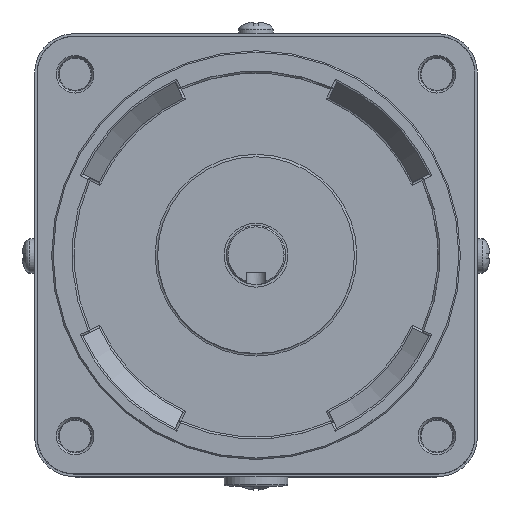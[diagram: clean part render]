
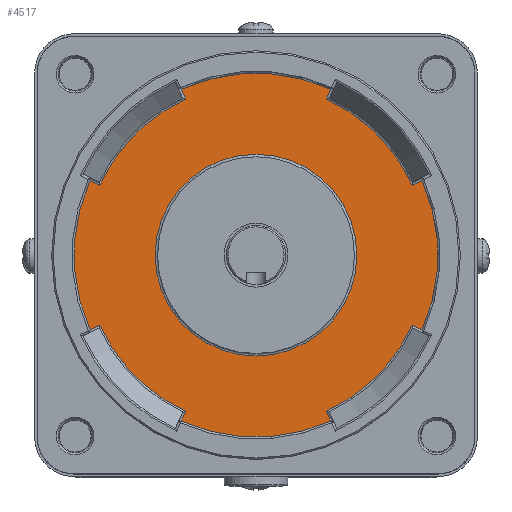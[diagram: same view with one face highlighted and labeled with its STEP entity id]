
A CAD part, top view. The second image highlights one B-rep face of the part: STEP entity #4517.
In plain terms, the highlighted planar face has unit normal (0, 0, 1).
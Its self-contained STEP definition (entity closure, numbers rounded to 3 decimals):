
#151 = DIRECTION ( 'NONE',  ( 0., 0., 1. ) ) ;
#214 = EDGE_CURVE ( 'NONE', #10120, #3008, #1439, .T. ) ;
#532 = EDGE_LOOP ( 'NONE', ( #12179, #13134, #2862, #12290, #6145, #11469, #13446, #6434, #1766, #11454, #2673, #5649, #7414, #8205, #9770, #7848 ) ) ;
#917 = LINE ( 'NONE', #3191, #1034 ) ;
#921 = VERTEX_POINT ( 'NONE', #8550 ) ;
#977 = EDGE_CURVE ( 'NONE', #8575, #4159, #11485, .T. ) ;
#1034 = VECTOR ( 'NONE', #9142, 1000. ) ;
#1363 = CIRCLE ( 'NONE', #7079, 36.987 ) ;
#1420 = CIRCLE ( 'NONE', #2755, 36.987 ) ;
#1439 = LINE ( 'NONE', #7895, #3119 ) ;
#1555 = CIRCLE ( 'NONE', #2223, 34.775 ) ;
#1766 = ORIENTED_EDGE ( 'NONE', *, *, #11081, .T. ) ;
#2002 = VERTEX_POINT ( 'NONE', #12352 ) ;
#2088 = CIRCLE ( 'NONE', #10825, 34.775 ) ;
#2223 = AXIS2_PLACEMENT_3D ( 'NONE', #6343, #151, #10574 ) ;
#2420 = DIRECTION ( 'NONE',  ( 0., 0., 1. ) ) ;
#2543 = EDGE_CURVE ( 'NONE', #6810, #3446, #10023, .T. ) ;
#2603 = DIRECTION ( 'NONE',  ( 1., 0., 0. ) ) ;
#2613 = FACE_OUTER_BOUND ( 'NONE', #532, .T. ) ;
#2623 = EDGE_CURVE ( 'NONE', #4159, #10120, #7289, .T. ) ;
#2673 = ORIENTED_EDGE ( 'NONE', *, *, #977, .T. ) ;
#2712 = CARTESIAN_POINT ( 'NONE',  ( -33.73, -15.177, -2. ) ) ;
#2718 = DIRECTION ( 'NONE',  ( 0.906, -0.423, 0. ) ) ;
#2733 = DIRECTION ( 'NONE',  ( 1., 0., 0. ) ) ;
#2755 = AXIS2_PLACEMENT_3D ( 'NONE', #12578, #7246, #8138 ) ;
#2805 = EDGE_CURVE ( 'NONE', #7605, #8666, #1555, .T. ) ;
#2842 = VERTEX_POINT ( 'NONE', #7016 ) ;
#2862 = ORIENTED_EDGE ( 'NONE', *, *, #11495, .T. ) ;
#2972 = EDGE_CURVE ( 'NONE', #3008, #10675, #6156, .T. ) ;
#3008 = VERTEX_POINT ( 'NONE', #10351 ) ;
#3119 = VECTOR ( 'NONE', #8779, 1000. ) ;
#3191 = CARTESIAN_POINT ( 'NONE',  ( -14.338, 31.932, -2. ) ) ;
#3309 = CARTESIAN_POINT ( 'NONE',  ( -33.73, 15.177, -2. ) ) ;
#3446 = VERTEX_POINT ( 'NONE', #4048 ) ;
#3720 = PLANE ( 'NONE',  #9865 ) ;
#3873 = EDGE_CURVE ( 'NONE', #4359, #5168, #7857, .T. ) ;
#3902 = DIRECTION ( 'NONE',  ( 0., 0., 1. ) ) ;
#4024 = AXIS2_PLACEMENT_3D ( 'NONE', #7046, #3902, #8070 ) ;
#4048 = CARTESIAN_POINT ( 'NONE',  ( 33.73, -15.177, -2. ) ) ;
#4084 = DIRECTION ( 'NONE',  ( -0.906, -0.423, 0. ) ) ;
#4159 = VERTEX_POINT ( 'NONE', #10083 ) ;
#4245 = DIRECTION ( 'NONE',  ( 0.906, 0.423, 0. ) ) ;
#4262 = CARTESIAN_POINT ( 'NONE',  ( 31.725, -14.242, -2. ) ) ;
#4332 = VERTEX_POINT ( 'NONE', #3309 ) ;
#4359 = VERTEX_POINT ( 'NONE', #11515 ) ;
#4517 = ADVANCED_FACE ( 'NONE', ( #2613, #7758 ), #3720, .T. ) ;
#5059 = LINE ( 'NONE', #9220, #7346 ) ;
#5098 = EDGE_LOOP ( 'NONE', ( #12150 ) ) ;
#5168 = VERTEX_POINT ( 'NONE', #7715 ) ;
#5421 = LINE ( 'NONE', #6787, #8880 ) ;
#5649 = ORIENTED_EDGE ( 'NONE', *, *, #2623, .T. ) ;
#5879 = EDGE_CURVE ( 'NONE', #2842, #2842, #8109, .T. ) ;
#6053 = CARTESIAN_POINT ( 'NONE',  ( -14.242, -31.725, -2. ) ) ;
#6145 = ORIENTED_EDGE ( 'NONE', *, *, #12709, .T. ) ;
#6156 = CIRCLE ( 'NONE', #12499, 36.987 ) ;
#6195 = VECTOR ( 'NONE', #2718, 1000. ) ;
#6343 = CARTESIAN_POINT ( 'NONE',  ( 0., 0., -2. ) ) ;
#6434 = ORIENTED_EDGE ( 'NONE', *, *, #2805, .T. ) ;
#6440 = CARTESIAN_POINT ( 'NONE',  ( 15.177, 33.73, -2. ) ) ;
#6771 = DIRECTION ( 'NONE',  ( 0., 0., 1. ) ) ;
#6787 = CARTESIAN_POINT ( 'NONE',  ( 14.338, -31.932, -2. ) ) ;
#6791 = DIRECTION ( 'NONE',  ( 0., 0., 1. ) ) ;
#6810 = VERTEX_POINT ( 'NONE', #4262 ) ;
#6849 = AXIS2_PLACEMENT_3D ( 'NONE', #8124, #8055, #12369 ) ;
#6862 = DIRECTION ( 'NONE',  ( 1., 0., 0. ) ) ;
#7016 = CARTESIAN_POINT ( 'NONE',  ( 20.5, 0., -2. ) ) ;
#7046 = CARTESIAN_POINT ( 'NONE',  ( 0., 0., -2. ) ) ;
#7079 = AXIS2_PLACEMENT_3D ( 'NONE', #12794, #11765, #13067 ) ;
#7246 = DIRECTION ( 'NONE',  ( 0., 0., 1. ) ) ;
#7252 = VERTEX_POINT ( 'NONE', #6440 ) ;
#7289 = CIRCLE ( 'NONE', #6849, 34.775 ) ;
#7346 = VECTOR ( 'NONE', #13408, 1000. ) ;
#7414 = ORIENTED_EDGE ( 'NONE', *, *, #214, .T. ) ;
#7605 = VERTEX_POINT ( 'NONE', #13539 ) ;
#7679 = CARTESIAN_POINT ( 'NONE',  ( 0., 0., -2. ) ) ;
#7715 = CARTESIAN_POINT ( 'NONE',  ( 14.242, 31.725, -2. ) ) ;
#7758 = FACE_BOUND ( 'NONE', #5098, .T. ) ;
#7848 = ORIENTED_EDGE ( 'NONE', *, *, #10902, .T. ) ;
#7857 = CIRCLE ( 'NONE', #10030, 34.775 ) ;
#7895 = CARTESIAN_POINT ( 'NONE',  ( 0.453, -0.211, -2. ) ) ;
#7904 = DIRECTION ( 'NONE',  ( 1., 0., 0. ) ) ;
#7923 = CARTESIAN_POINT ( 'NONE',  ( 0.211, 0.453, -2. ) ) ;
#8055 = DIRECTION ( 'NONE',  ( 0., 0., 1. ) ) ;
#8070 = DIRECTION ( 'NONE',  ( 1., 0., 0. ) ) ;
#8109 = CIRCLE ( 'NONE', #11813, 20.5 ) ;
#8124 = CARTESIAN_POINT ( 'NONE',  ( 0., 0., -2. ) ) ;
#8138 = DIRECTION ( 'NONE',  ( 1., 0., 0. ) ) ;
#8205 = ORIENTED_EDGE ( 'NONE', *, *, #2972, .T. ) ;
#8356 = LINE ( 'NONE', #12463, #12667 ) ;
#8372 = EDGE_CURVE ( 'NONE', #4332, #8575, #1363, .T. ) ;
#8452 = EDGE_CURVE ( 'NONE', #3446, #921, #9902, .T. ) ;
#8550 = CARTESIAN_POINT ( 'NONE',  ( 33.73, 15.177, -2. ) ) ;
#8575 = VERTEX_POINT ( 'NONE', #2712 ) ;
#8666 = VERTEX_POINT ( 'NONE', #10570 ) ;
#8779 = DIRECTION ( 'NONE',  ( -0.423, -0.906, 0. ) ) ;
#8880 = VECTOR ( 'NONE', #9649, 1000. ) ;
#9142 = DIRECTION ( 'NONE',  ( 0.423, -0.906, 0. ) ) ;
#9220 = CARTESIAN_POINT ( 'NONE',  ( -0.211, -0.453, -2. ) ) ;
#9649 = DIRECTION ( 'NONE',  ( -0.423, 0.906, 0. ) ) ;
#9770 = ORIENTED_EDGE ( 'NONE', *, *, #10321, .T. ) ;
#9786 = CARTESIAN_POINT ( 'NONE',  ( 0., 0., -2. ) ) ;
#9865 = AXIS2_PLACEMENT_3D ( 'NONE', #9786, #6791, #6862 ) ;
#9902 = CIRCLE ( 'NONE', #4024, 36.987 ) ;
#10023 = LINE ( 'NONE', #7923, #6195 ) ;
#10030 = AXIS2_PLACEMENT_3D ( 'NONE', #12183, #12116, #2733 ) ;
#10083 = CARTESIAN_POINT ( 'NONE',  ( -31.725, -14.242, -2. ) ) ;
#10120 = VERTEX_POINT ( 'NONE', #6053 ) ;
#10303 = LINE ( 'NONE', #13458, #11095 ) ;
#10321 = EDGE_CURVE ( 'NONE', #10675, #2002, #5421, .T. ) ;
#10351 = CARTESIAN_POINT ( 'NONE',  ( -15.177, -33.73, -2. ) ) ;
#10459 = CARTESIAN_POINT ( 'NONE',  ( -31.932, -14.338, -2. ) ) ;
#10570 = CARTESIAN_POINT ( 'NONE',  ( -31.725, 14.242, -2. ) ) ;
#10574 = DIRECTION ( 'NONE',  ( 1., 0., 0. ) ) ;
#10675 = VERTEX_POINT ( 'NONE', #11361 ) ;
#10825 = AXIS2_PLACEMENT_3D ( 'NONE', #11972, #6771, #10932 ) ;
#10902 = EDGE_CURVE ( 'NONE', #2002, #6810, #2088, .T. ) ;
#10932 = DIRECTION ( 'NONE',  ( 1., 0., 0. ) ) ;
#11035 = EDGE_CURVE ( 'NONE', #7252, #12651, #1420, .T. ) ;
#11081 = EDGE_CURVE ( 'NONE', #8666, #4332, #5059, .T. ) ;
#11095 = VECTOR ( 'NONE', #4084, 1000. ) ;
#11361 = CARTESIAN_POINT ( 'NONE',  ( 15.177, -33.73, -2. ) ) ;
#11454 = ORIENTED_EDGE ( 'NONE', *, *, #8372, .T. ) ;
#11469 = ORIENTED_EDGE ( 'NONE', *, *, #11035, .T. ) ;
#11485 = LINE ( 'NONE', #10459, #13052 ) ;
#11495 = EDGE_CURVE ( 'NONE', #921, #4359, #10303, .T. ) ;
#11496 = EDGE_CURVE ( 'NONE', #12651, #7605, #917, .T. ) ;
#11499 = CARTESIAN_POINT ( 'NONE',  ( -15.177, 33.73, -2. ) ) ;
#11515 = CARTESIAN_POINT ( 'NONE',  ( 31.725, 14.242, -2. ) ) ;
#11636 = DIRECTION ( 'NONE',  ( 0.423, 0.906, 0. ) ) ;
#11765 = DIRECTION ( 'NONE',  ( 0., 0., 1. ) ) ;
#11813 = AXIS2_PLACEMENT_3D ( 'NONE', #7679, #12945, #2603 ) ;
#11972 = CARTESIAN_POINT ( 'NONE',  ( 0., 0., -2. ) ) ;
#12116 = DIRECTION ( 'NONE',  ( 0., 0., 1. ) ) ;
#12150 = ORIENTED_EDGE ( 'NONE', *, *, #5879, .T. ) ;
#12179 = ORIENTED_EDGE ( 'NONE', *, *, #2543, .T. ) ;
#12183 = CARTESIAN_POINT ( 'NONE',  ( 0., 0., -2. ) ) ;
#12290 = ORIENTED_EDGE ( 'NONE', *, *, #3873, .T. ) ;
#12352 = CARTESIAN_POINT ( 'NONE',  ( 14.242, -31.725, -2. ) ) ;
#12369 = DIRECTION ( 'NONE',  ( 1., 0., 0. ) ) ;
#12463 = CARTESIAN_POINT ( 'NONE',  ( -0.453, 0.211, -2. ) ) ;
#12499 = AXIS2_PLACEMENT_3D ( 'NONE', #12896, #2420, #7904 ) ;
#12578 = CARTESIAN_POINT ( 'NONE',  ( 0., 0., -2. ) ) ;
#12651 = VERTEX_POINT ( 'NONE', #11499 ) ;
#12667 = VECTOR ( 'NONE', #11636, 1000. ) ;
#12709 = EDGE_CURVE ( 'NONE', #5168, #7252, #8356, .T. ) ;
#12794 = CARTESIAN_POINT ( 'NONE',  ( 0., 0., -2. ) ) ;
#12896 = CARTESIAN_POINT ( 'NONE',  ( 0., 0., -2. ) ) ;
#12945 = DIRECTION ( 'NONE',  ( 0., 0., -1. ) ) ;
#13052 = VECTOR ( 'NONE', #4245, 1000. ) ;
#13067 = DIRECTION ( 'NONE',  ( 1., 0., 0. ) ) ;
#13134 = ORIENTED_EDGE ( 'NONE', *, *, #8452, .T. ) ;
#13408 = DIRECTION ( 'NONE',  ( -0.906, 0.423, 0. ) ) ;
#13446 = ORIENTED_EDGE ( 'NONE', *, *, #11496, .T. ) ;
#13458 = CARTESIAN_POINT ( 'NONE',  ( 31.932, 14.338, -2. ) ) ;
#13539 = CARTESIAN_POINT ( 'NONE',  ( -14.242, 31.725, -2. ) ) ;
